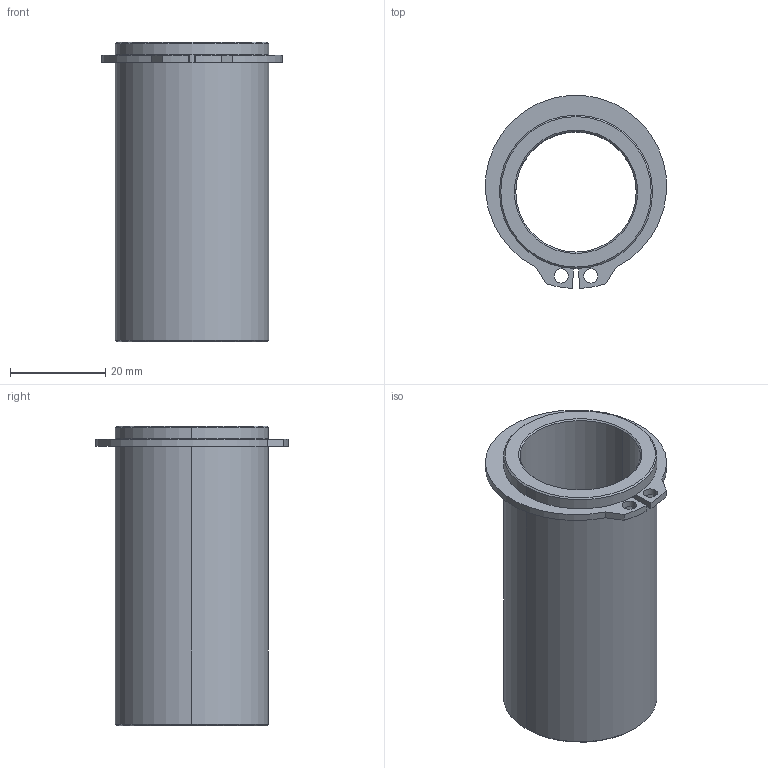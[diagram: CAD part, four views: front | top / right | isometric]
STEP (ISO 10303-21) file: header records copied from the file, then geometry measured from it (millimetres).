
FILE_DESCRIPTION((''),'2;1');
FILE_NAME('C13_025_063.stp','2008-12-17T15:01:37',(''),(''),'Mechanical Desktop 2009','Mechanical Desktop 2009',', , ');
FILE_SCHEMA(('CONFIG_CONTROL_DESIGN'));
Length unit declared in the file: millimetre
Products named in the file (2): Product; blmdl1
Assembly tree (1 placements, depth 2):
  Product
    blmdl1
Bounding box: 38.06 x 40.59 x 63 mm (x, y, z)
Volume: 20162.6 mm3; surface area: 13229 mm2
Topology: 2 solids, 2 shells, 34 faces, 76 edges, 48 vertices
Faces by surface type: cylinder 16, plane 10, cone 8
Entity records: 1075 total; most frequent: DIRECTION 188, CARTESIAN_POINT 160, ORIENTED_EDGE 152, AXIS2_PLACEMENT_3D 76, EDGE_CURVE 76, VERTEX_POINT 48, EDGE_LOOP 42, CIRCLE 40
